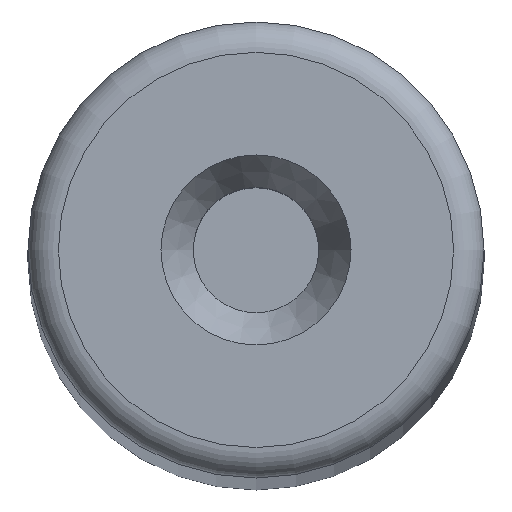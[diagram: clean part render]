
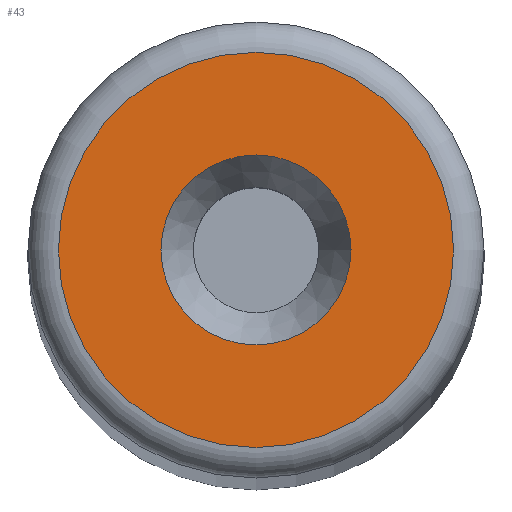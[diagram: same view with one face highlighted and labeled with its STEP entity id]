
A CAD part, top view. The second image highlights one B-rep face of the part: STEP entity #43.
In plain terms, the highlighted planar face has unit normal (0, 0, 1).
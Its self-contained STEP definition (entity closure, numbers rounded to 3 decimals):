
#43=ADVANCED_FACE('',(#58,#59),#54,.T.);
#54=PLANE('',#149);
#58=FACE_BOUND('',#76,.T.);
#59=FACE_BOUND('',#77,.T.);
#76=EDGE_LOOP('',(#96));
#77=EDGE_LOOP('',(#97));
#96=ORIENTED_EDGE('',*,*,#126,.T.);
#97=ORIENTED_EDGE('',*,*,#127,.F.);
#116=VERTEX_POINT('',#214);
#117=VERTEX_POINT('',#216);
#126=EDGE_CURVE('',#116,#116,#136,.T.);
#127=EDGE_CURVE('',#117,#117,#137,.T.);
#136=CIRCLE('',#147,5.2);
#137=CIRCLE('',#148,2.5);
#147=AXIS2_PLACEMENT_3D('',#213,#170,#171);
#148=AXIS2_PLACEMENT_3D('',#215,#172,#173);
#149=AXIS2_PLACEMENT_3D('',#217,#174,#175);
#170=DIRECTION('',(0.,0.,1.));
#171=DIRECTION('',(1.,0.,0.));
#172=DIRECTION('',(0.,0.,1.));
#173=DIRECTION('',(1.,0.,0.));
#174=DIRECTION('',(0.,0.,1.));
#175=DIRECTION('',(1.,0.,0.));
#213=CARTESIAN_POINT('',(0.,0.,182.));
#214=CARTESIAN_POINT('',(5.2,0.,182.));
#215=CARTESIAN_POINT('',(0.,0.,182.));
#216=CARTESIAN_POINT('',(2.5,0.,182.));
#217=CARTESIAN_POINT('',(0.,0.,182.));
